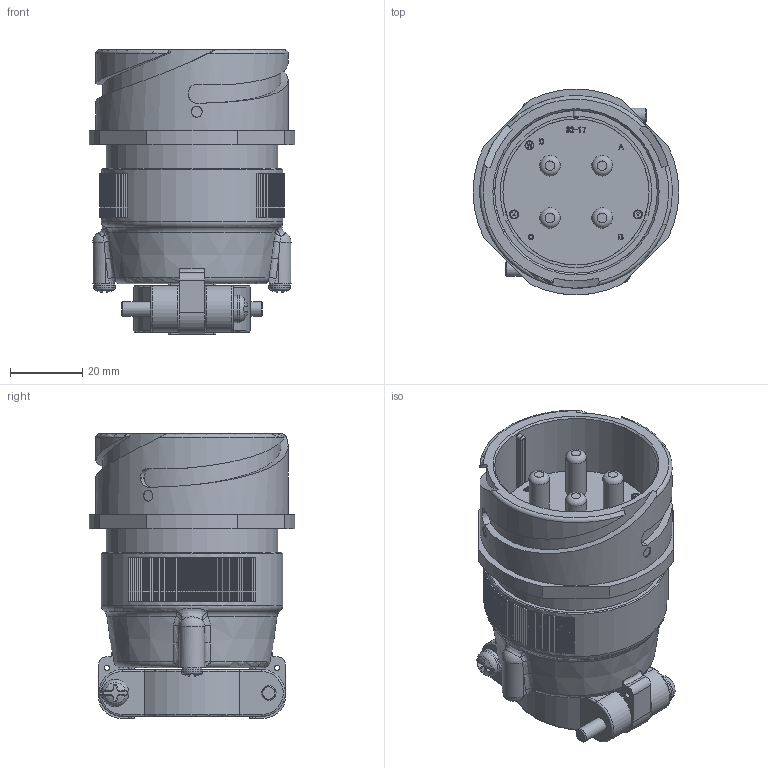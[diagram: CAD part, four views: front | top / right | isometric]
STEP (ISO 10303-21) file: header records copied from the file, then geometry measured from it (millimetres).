
FILE_DESCRIPTION (( 'STEP AP203' ), '1' );
FILE_NAME ('DCA3101E32-17P-D(R1).STEP', '2021-06-16T02:35:34', ( '' ), ( '' ), 'SwSTEP 2.0', 'SolidWorks 2018', '' );
FILE_SCHEMA (( 'CONFIG_CONTROL_DESIGN' ));
Length unit declared in the file: millimetre
Products named in the file (1): DCA3101E32-17P-D(R1)
Bounding box: 57.1 x 57.1 x 78.9 mm (x, y, z)
Volume: 91365.4 mm3; surface area: 33698.9 mm2
Topology: 1 solids, 1 shells, 963 faces, 2620 edges, 1717 vertices
Faces by surface type: plane 541, cylinder 232, bspline 113, torus 34, cone 31, sphere 12
Full cylindrical faces by diameter (mm): 1.5 x2, 2.1 x3, 2.5 x3, 4 x2, 5 x4, 5.7 x2, 5.715 x4, 8.5 x4, 9.5 x4, 10 x4, 10.4 x4, 12.7 x4, 12.9 x4, 32 x1, 37 x1, 40.5 x1, 40.7 x1, 45.12 x1, 47.58 x1, 50.3 x1, 53.4 x1
Entity records: 34788 total; most frequent: CARTESIAN_POINT 11340, ORIENTED_EDGE 4978, DIRECTION 4536, EDGE_CURVE 2489, VERTEX_POINT 1682, VECTOR 1546, LINE 1546, AXIS2_PLACEMENT_3D 1495
